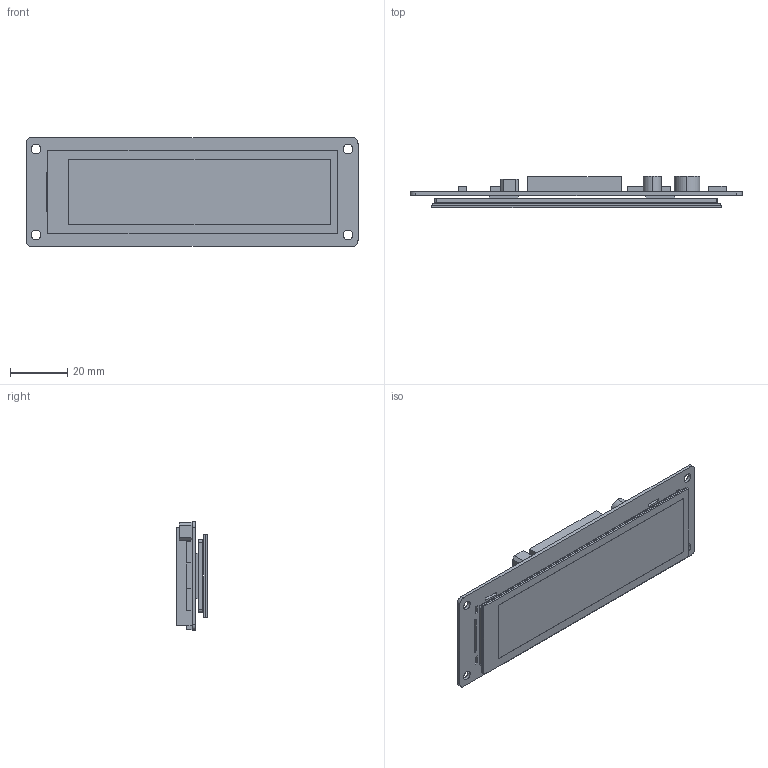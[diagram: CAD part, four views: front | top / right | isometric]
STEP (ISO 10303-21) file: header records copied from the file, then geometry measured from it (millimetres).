
FILE_DESCRIPTION (( 'STEP AP214' ), '1' );
FILE_NAME ('DMG96240C037_03WTC 3D.STEP', '2023-11-03T03:37:52', ( '' ), ( 'Microsoft' ), 'SwSTEP 2.0', 'SolidWorks 2017', '' );
FILE_SCHEMA (( 'AUTOMOTIVE_DESIGN' ));
Length unit declared in the file: millimetre
Products named in the file (5): TPC037C0001G01V1-馱最芞; LI24960T037BA4004TCZ01; DMG96240C037_03WTC; DMG96240C037_03WTC  3D; VHB 1mm
Assembly tree (5 placements, depth 2):
  DMG96240C037_03WTC  3D
    DMG96240C037_03WTC
    LI24960T037BA4004TCZ01
    TPC037C0001G01V1-馱最芞
    VHB 1mm  x2
Bounding box: 116 x 10.98 x 38 mm (x, y, z)
Volume: 20925.5 mm3; surface area: 23098.4 mm2
Topology: 5 solids, 5 shells, 244 faces, 688 edges, 466 vertices
Faces by surface type: cylinder 124, plane 120
Entity records: 10724 total; most frequent: DIRECTION 1416, CARTESIAN_POINT 1380, ORIENTED_EDGE 1352, EDGE_CURVE 676, AXIS2_PLACEMENT_3D 494, VERTEX_POINT 458, VECTOR 428, LINE 428
